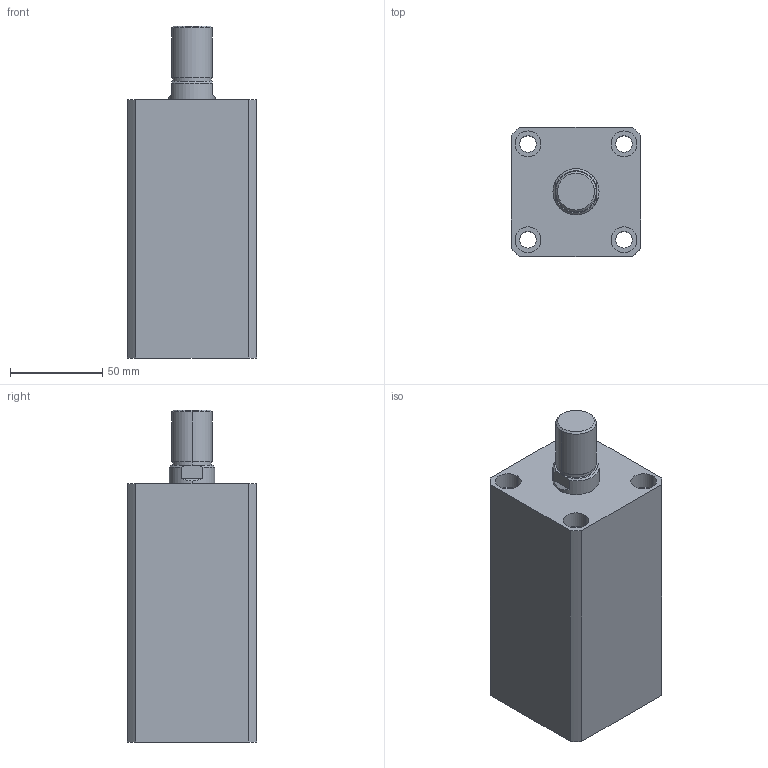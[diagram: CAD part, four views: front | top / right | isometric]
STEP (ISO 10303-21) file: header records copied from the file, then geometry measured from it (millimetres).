
FILE_DESCRIPTION (( 'STEP AP203' ), '1' );
FILE_NAME ('HTB-SDMB40-85W.STEP', '2019-10-09T02:20:06', ( '微软用户' ), ( '微软中国' ), 'SwSTEP 2.0', 'SolidWorks 2012', '' );
FILE_SCHEMA (( 'CONFIG_CONTROL_DESIGN' ));
Length unit declared in the file: millimetre
Products named in the file (3): HTB-SDMB40-85W; HTB-SDMB40-85W活塞杆; HTB-SDMB40-85掛极
Assembly tree (2 placements, depth 2):
  HTB-SDMB40-85W
    HTB-SDMB40-85掛极
    HTB-SDMB40-85W活塞杆
Bounding box: 70 x 70 x 180 mm (x, y, z)
Volume: 588956.9 mm3; surface area: 97361.1 mm2
Topology: 2 solids, 2 shells, 141 faces, 337 edges, 222 vertices
Faces by surface type: plane 67, cylinder 48, bspline 16, torus 6, cone 4
Entity records: 5180 total; most frequent: CARTESIAN_POINT 1597, ORIENTED_EDGE 674, DIRECTION 669, EDGE_CURVE 337, AXIS2_PLACEMENT_3D 242, VERTEX_POINT 222, VECTOR 185, LINE 185
